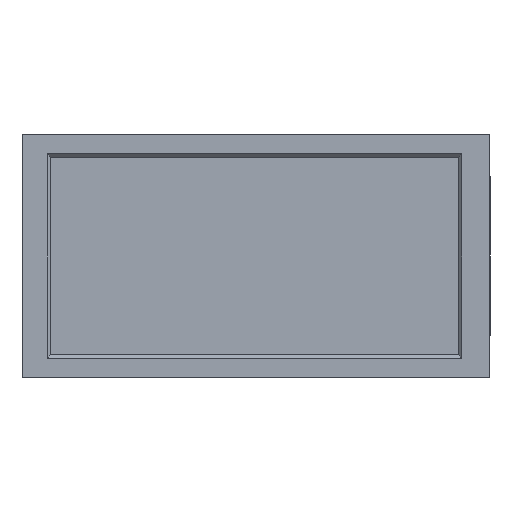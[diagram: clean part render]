
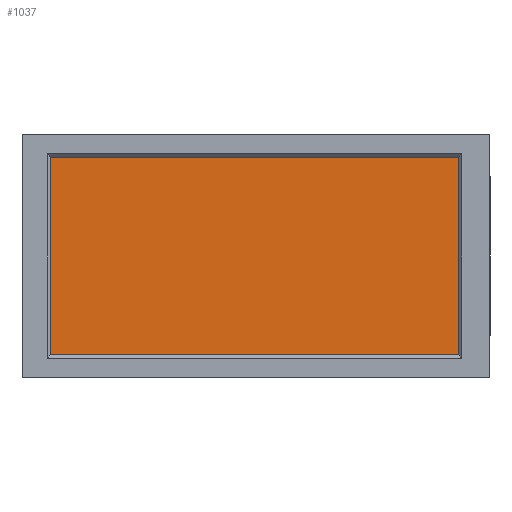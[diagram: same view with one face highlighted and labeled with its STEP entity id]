
A CAD part, left-side view. The second image highlights one B-rep face of the part: STEP entity #1037.
In plain terms, the highlighted planar face has unit normal (-1, 0, 0).
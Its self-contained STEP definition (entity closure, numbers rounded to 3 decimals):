
#11 = CARTESIAN_POINT ( 'NONE',  ( 0.2, 2., -6.3 ) ) ;
#27 = CARTESIAN_POINT ( 'NONE',  ( 0.2, 2., -6.3 ) ) ;
#91 = CARTESIAN_POINT ( 'NONE',  ( 0.2, 28., -6.3 ) ) ;
#152 = VERTEX_POINT ( 'NONE', #1079 ) ;
#186 = EDGE_LOOP ( 'NONE', ( #824, #1252, #545, #1483 ) ) ;
#250 = CARTESIAN_POINT ( 'NONE',  ( 0.2, 2., -6.3 ) ) ;
#386 = LINE ( 'NONE', #250, #1514 ) ;
#492 = DIRECTION ( 'NONE',  ( 0., 0., -1. ) ) ;
#545 = ORIENTED_EDGE ( 'NONE', *, *, #1702, .T. ) ;
#573 = DIRECTION ( 'NONE',  ( 0., 1., 0. ) ) ;
#596 = FACE_OUTER_BOUND ( 'NONE', #186, .T. ) ;
#613 = PLANE ( 'NONE',  #1061 ) ;
#764 = DIRECTION ( 'NONE',  ( 1., 0., 0. ) ) ;
#824 = ORIENTED_EDGE ( 'NONE', *, *, #1341, .T. ) ;
#862 = VERTEX_POINT ( 'NONE', #1080 ) ;
#883 = EDGE_CURVE ( 'NONE', #929, #862, #1206, .T. ) ;
#929 = VERTEX_POINT ( 'NONE', #27 ) ;
#1037 = ADVANCED_FACE ( 'NONE', ( #596 ), #613, .F. ) ;
#1061 = AXIS2_PLACEMENT_3D ( 'NONE', #1302, #764, #1553 ) ;
#1070 = DIRECTION ( 'NONE',  ( 0., 0., 1. ) ) ;
#1079 = CARTESIAN_POINT ( 'NONE',  ( 0.2, 28., -6.3 ) ) ;
#1080 = CARTESIAN_POINT ( 'NONE',  ( 0.2, 2., 6.3 ) ) ;
#1081 = EDGE_CURVE ( 'NONE', #1231, #152, #1576, .T. ) ;
#1206 = LINE ( 'NONE', #11, #1635 ) ;
#1207 = VECTOR ( 'NONE', #492, 1000. ) ;
#1220 = CARTESIAN_POINT ( 'NONE',  ( 0.2, 2., 6.3 ) ) ;
#1231 = VERTEX_POINT ( 'NONE', #1478 ) ;
#1252 = ORIENTED_EDGE ( 'NONE', *, *, #1081, .T. ) ;
#1300 = VECTOR ( 'NONE', #573, 1000. ) ;
#1302 = CARTESIAN_POINT ( 'NONE',  ( 0.2, 0., 0. ) ) ;
#1341 = EDGE_CURVE ( 'NONE', #862, #1231, #1606, .T. ) ;
#1478 = CARTESIAN_POINT ( 'NONE',  ( 0.2, 28., 6.3 ) ) ;
#1483 = ORIENTED_EDGE ( 'NONE', *, *, #883, .T. ) ;
#1514 = VECTOR ( 'NONE', #1726, 1000. ) ;
#1553 = DIRECTION ( 'NONE',  ( 0., 1., 0. ) ) ;
#1576 = LINE ( 'NONE', #91, #1207 ) ;
#1606 = LINE ( 'NONE', #1220, #1300 ) ;
#1635 = VECTOR ( 'NONE', #1070, 1000. ) ;
#1702 = EDGE_CURVE ( 'NONE', #152, #929, #386, .T. ) ;
#1726 = DIRECTION ( 'NONE',  ( 0., -1., 0. ) ) ;
